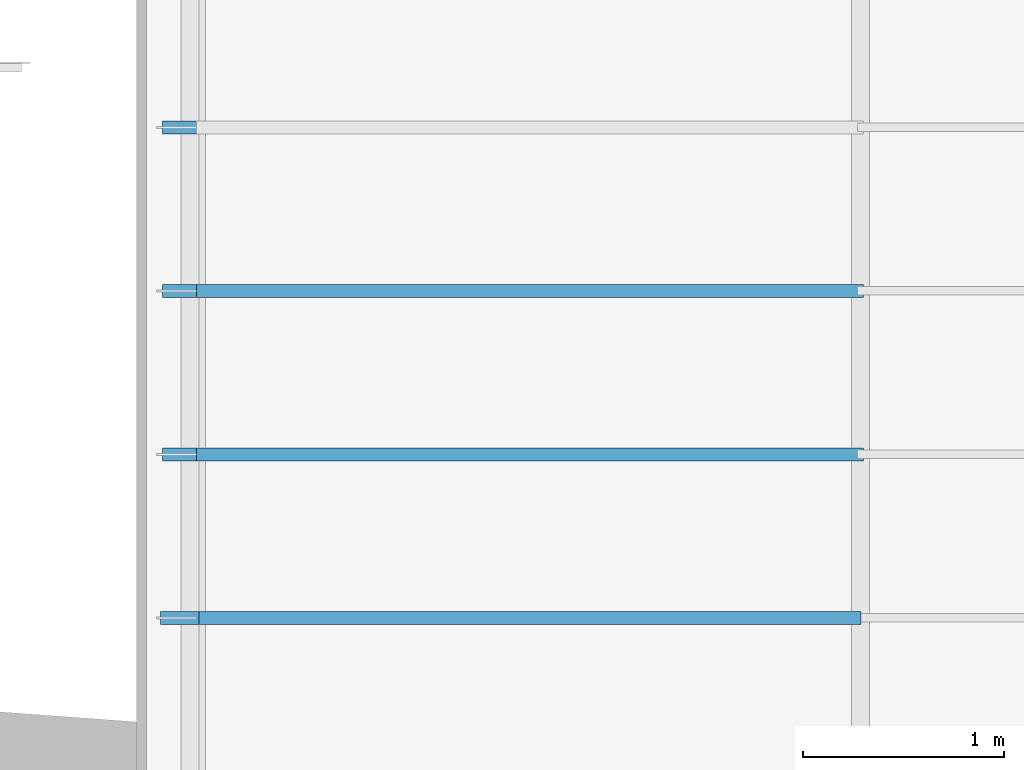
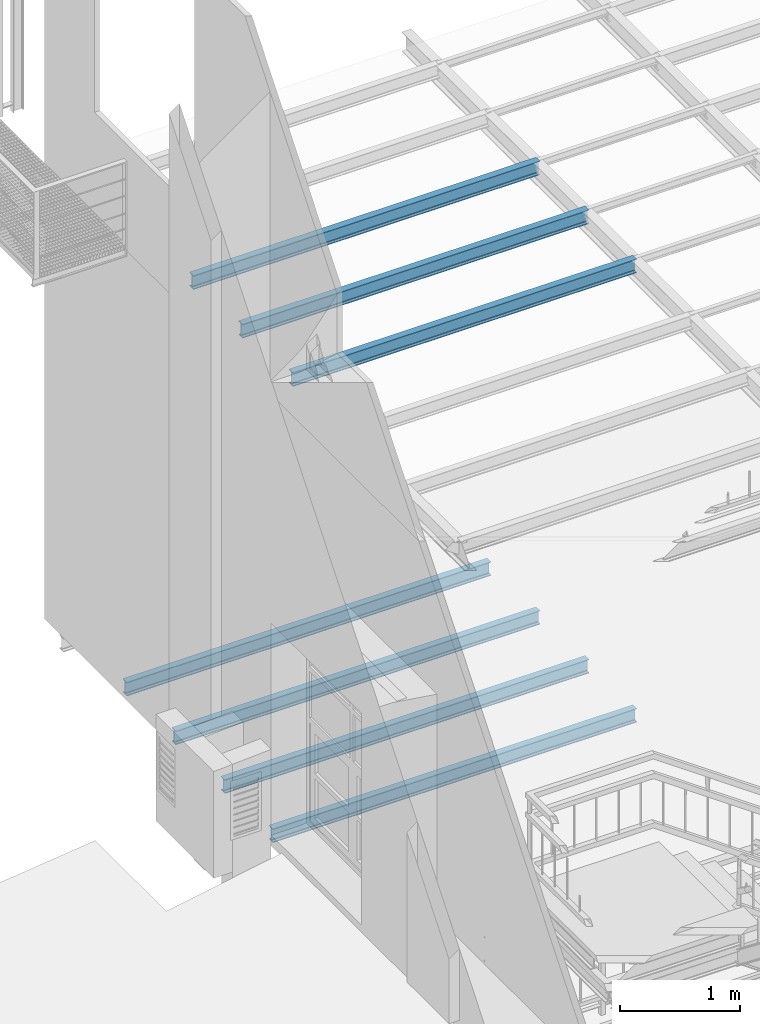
# One storey, part 18 of 33: 7 beams.
"""IFC2X3 building model written with IfcOpenShell, lengths in metres."""

from ifc_helpers import new_model, entity, si_unit, converted_unit, derived_unit, direction, frame, frame_2d, origin, place, context, subcontext, project, spatial, polyline, circle_curve, parameter, trimmed, segment, composite_curve, outline, extrude, material, type_object, element, save


model = new_model("IFC2X3")

# Units and contexts
model_context = context("Model", 3, precision=1e-05, world=origin(), true_north=direction((6.12303176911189e-17, 1.0)))
body_context = subcontext(model_context, "Body", "Model", "MODEL_VIEW")
ifc_project = project(units=[si_unit("LENGTHUNIT", "METRE"), si_unit("AREAUNIT", "SQUARE_METRE"), si_unit("VOLUMEUNIT", "CUBIC_METRE"), converted_unit("PLANEANGLEUNIT", "DEGREE", entity("IfcRatioMeasure", 0.0174532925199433), si_unit("PLANEANGLEUNIT", "RADIAN"), dimensions=[0, 0, 0, 0, 0, 0, 0]), si_unit("MASSUNIT", "GRAM", prefix="KILO"), derived_unit("MASSDENSITYUNIT", [(si_unit("MASSUNIT", "GRAM", prefix="KILO"), 1), (si_unit("LENGTHUNIT", "METRE"), -3)]), derived_unit("MOMENTOFINERTIAUNIT", [(si_unit("LENGTHUNIT", "METRE"), 4)]), si_unit("TIMEUNIT", "SECOND"), si_unit("FREQUENCYUNIT", "HERTZ"), si_unit("THERMODYNAMICTEMPERATUREUNIT", "DEGREE_CELSIUS"), derived_unit("THERMALTRANSMITTANCEUNIT", [(si_unit("MASSUNIT", "GRAM", prefix="KILO"), 1), (si_unit("THERMODYNAMICTEMPERATUREUNIT", "KELVIN"), -1), (si_unit("TIMEUNIT", "SECOND"), -3)]), derived_unit("VOLUMETRICFLOWRATEUNIT", [(si_unit("LENGTHUNIT", "METRE"), 3), (si_unit("TIMEUNIT", "SECOND"), -1)]), si_unit("ELECTRICCURRENTUNIT", "AMPERE"), si_unit("ELECTRICVOLTAGEUNIT", "VOLT"), si_unit("POWERUNIT", "WATT"), si_unit("FORCEUNIT", "NEWTON", prefix="KILO"), si_unit("ILLUMINANCEUNIT", "LUX"), si_unit("LUMINOUSFLUXUNIT", "LUMEN"), si_unit("LUMINOUSINTENSITYUNIT", "CANDELA"), derived_unit("USERDEFINED", [(si_unit("MASSUNIT", "GRAM", prefix="KILO"), -1), (si_unit("LENGTHUNIT", "METRE"), -2), (si_unit("TIMEUNIT", "SECOND"), 3), (si_unit("LUMINOUSFLUXUNIT", "LUMEN"), 1)]), derived_unit("LINEARVELOCITYUNIT", [(si_unit("LENGTHUNIT", "METRE"), 1), (si_unit("TIMEUNIT", "SECOND"), -1)]), si_unit("PRESSUREUNIT", "PASCAL"), derived_unit("USERDEFINED", [(si_unit("LENGTHUNIT", "METRE"), -2), (si_unit("MASSUNIT", "GRAM", prefix="KILO"), 1), (si_unit("TIMEUNIT", "SECOND"), -2)]), derived_unit("LINEARFORCEUNIT", [(si_unit("MASSUNIT", "GRAM", prefix="KILO"), 1), (si_unit("LENGTHUNIT", "METRE"), 1), (si_unit("TIMEUNIT", "SECOND"), -2), (si_unit("LENGTHUNIT", "METRE"), -1)]), derived_unit("PLANARFORCEUNIT", [(si_unit("MASSUNIT", "GRAM", prefix="KILO"), 1), (si_unit("LENGTHUNIT", "METRE"), 1), (si_unit("TIMEUNIT", "SECOND"), -2), (si_unit("LENGTHUNIT", "METRE"), -2)])], contexts=[model_context])

# Site, building, storey
site_placement = place(None, origin())
site = spatial("IfcSite", under=ifc_project, at=site_placement, Name="Superficie", CompositionType="ELEMENT")
building_placement = place(site_placement, origin())
building = spatial("IfcBuilding", under=site, at=building_placement, Name="Telegestiones", CompositionType="ELEMENT")
storey_placement = place(building_placement, frame((0.0, 0.0, 4.94)))
storey = spatial("IfcBuildingStorey", under=building, at=storey_placement, Name="Nivel 1_NPT", CompositionType="ELEMENT", Elevation=4.94)

# Beams
ifc_material = material(Name="Metal - Acero - 345 MPa")
beam_type = type_object("IfcBeamType", Name="IPN - Secciones en I con alas cónicas:IPN 140", PredefinedType="NOTDEFINED")
beam_1_placement = place(storey_placement, frame((6.15449215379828, 10.1916072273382, 0.0)))
element("IfcBeam", 1, at=beam_1_placement, inside=storey, type_object=beam_type, material=ifc_material, Name="IPN - Secciones en I con alas cónicas:IPN 140", ObjectType="IPN - Secciones en I con alas cónicas:IPN 140", context=body_context, shape_type="SweptSolid", body=[
    extrude(outline(composite_curve([segment(polyline([(0.0666671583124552, -0.0330000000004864), (0.069999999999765, -0.0330000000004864)]), True, "CONTINUOUS"), segment(polyline([(0.069999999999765, -0.0330000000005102), (0.0700000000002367, 0.0329999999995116)]), True, "CONTINUOUS"), segment(polyline([(0.0700000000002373, 0.0329999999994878), (0.0666671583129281, 0.0329999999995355)]), True, "CONTINUOUS"), segment(trimmed(circle_curve(frame_2d((0.0666671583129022, 0.0295999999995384), x_axis=(0.0, 1.0)), 0.00339999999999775), [parameter(0.0)], [parameter(82.0303896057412)], True, "PARAMETER"), True, "CONTINUOUS"), segment(polyline([(0.0632999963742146, 0.0300714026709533), (0.060176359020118, 0.00775970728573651)]), True, "CONTINUOUS"), segment(trimmed(circle_curve(frame_2d((0.0545314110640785, 0.00854999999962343), x_axis=(0.990341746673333, -0.138647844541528)), 0.00570000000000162), [parameter(277.96961039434)], [parameter(0.0)], True, "PARAMETER"), False, "CONTINUOUS"), segment(polyline([(0.0545314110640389, 0.00284999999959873), (-0.054531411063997, 0.00285000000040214)]), True, "CONTINUOUS"), segment(trimmed(circle_curve(frame_2d((-0.0545314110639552, 0.008550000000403), x_axis=(0.0, -1.0)), 0.00570000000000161), [parameter(277.969610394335)], [parameter(0.0)], True, "PARAMETER"), False, "CONTINUOUS"), segment(polyline([(-0.0601763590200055, 0.00775970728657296), (-0.0632999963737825, 0.030071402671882)]), True, "CONTINUOUS"), segment(trimmed(circle_curve(frame_2d((-0.0666671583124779, 0.0296000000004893), x_axis=(0.990341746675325, 0.138647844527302)), 0.00339999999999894), [parameter(0.0)], [parameter(82.0303896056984)], True, "PARAMETER"), True, "CONTINUOUS"), segment(polyline([(-0.0666671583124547, 0.0330000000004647), (-0.0699999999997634, 0.0330000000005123)]), True, "CONTINUOUS"), segment(polyline([(-0.0699999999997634, 0.0330000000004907), (-0.0700000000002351, -0.0329999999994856)]), True, "CONTINUOUS"), segment(polyline([(-0.0700000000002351, -0.0329999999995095), (-0.0666671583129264, -0.0329999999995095)]), True, "CONTINUOUS"), segment(trimmed(circle_curve(frame_2d((-0.066667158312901, -0.0295999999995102), x_axis=(0.0, -1.0)), 0.00339999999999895), [parameter(0.0)], [parameter(82.0303896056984)], True, "PARAMETER"), True, "CONTINUOUS"), segment(polyline([(-0.0632999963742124, -0.0300714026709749), (-0.0601763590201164, -0.00775970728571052)]), True, "CONTINUOUS"), segment(trimmed(circle_curve(frame_2d((-0.0545314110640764, -0.00854999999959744), x_axis=(-0.990341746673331, 0.138647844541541)), 0.00570000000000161), [parameter(277.969610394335)], [parameter(0.0)], True, "PARAMETER"), False, "CONTINUOUS"), segment(polyline([(-0.0545314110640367, -0.00284999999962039), (0.0545314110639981, -0.00285000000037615)]), True, "CONTINUOUS"), segment(trimmed(circle_curve(frame_2d((0.0545314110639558, -0.00855000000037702), x_axis=(0.0, 1.0)), 0.00570000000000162), [parameter(277.96961039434)], [parameter(0.0)], True, "PARAMETER"), False, "CONTINUOUS"), segment(polyline([(0.0601763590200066, -0.00775970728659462), (0.0632999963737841, -0.030071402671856)]), True, "CONTINUOUS"), segment(trimmed(circle_curve(frame_2d((0.0666671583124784, -0.0296000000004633), x_axis=(-0.990341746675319, -0.138647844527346)), 0.00339999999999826), [parameter(0.0)], [parameter(82.030389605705)], True, "PARAMETER"), True, "CONTINUOUS")], self_intersect=False)), frame((0.000160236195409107, 0.0, -0.100000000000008), z_axis=(1.0, 0.0, 0.0), x_axis=(0.0, 0.0, -1.0)), (0.0, 0.0, 1.0), 3.493),
])
beam_2_placement = place(storey_placement, frame((6.1648126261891, 11.0071072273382, 0.0)))
element("IfcBeam", 2, at=beam_2_placement, inside=storey, type_object=beam_type, material=ifc_material, Name="IPN - Secciones en I con alas cónicas:IPN 140", ObjectType="IPN - Secciones en I con alas cónicas:IPN 140", context=body_context, shape_type="SweptSolid", body=[
    extrude(outline(composite_curve([segment(polyline([(0.0666671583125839, -0.0330000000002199), (0.0699999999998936, -0.0330000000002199)]), True, "CONTINUOUS"), segment(polyline([(0.0699999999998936, -0.0330000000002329), (0.0700000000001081, 0.0329999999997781)]), True, "CONTINUOUS"), segment(polyline([(0.0700000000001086, 0.0329999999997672), (0.0666671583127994, 0.0329999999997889)]), True, "CONTINUOUS"), segment(trimmed(circle_curve(frame_2d((0.0666671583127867, 0.0295999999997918), x_axis=(0.0, 1.0)), 0.00339999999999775), [parameter(0.0)], [parameter(82.0303896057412)], True, "PARAMETER"), True, "CONTINUOUS"), segment(polyline([(0.0632999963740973, 0.0300714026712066), (0.0601763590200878, 0.00775970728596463)]), True, "CONTINUOUS"), segment(trimmed(circle_curve(frame_2d((0.0545314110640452, 0.00854999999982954), x_axis=(0.990341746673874, -0.138647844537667)), 0.00570000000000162), [parameter(277.96961039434)], [parameter(0.0)], True, "PARAMETER"), False, "CONTINUOUS"), segment(polyline([(0.0545314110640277, 0.00284999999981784), (-0.0545314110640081, 0.00285000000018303)]), True, "CONTINUOUS"), segment(trimmed(circle_curve(frame_2d((-0.0545314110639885, 0.0085500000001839), x_axis=(0.0, -1.0)), 0.00570000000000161), [parameter(277.969610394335)], [parameter(0.0)], True, "PARAMETER"), False, "CONTINUOUS"), segment(polyline([(-0.0601763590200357, 0.00775970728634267), (-0.0632999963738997, 0.0300714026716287)]), True, "CONTINUOUS"), segment(trimmed(circle_curve(frame_2d((-0.0666671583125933, 0.0296000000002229), x_axis=(0.990341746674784, 0.138647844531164)), 0.00339999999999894), [parameter(0.0)], [parameter(82.0303896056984)], True, "PARAMETER"), True, "CONTINUOUS"), segment(polyline([(-0.0666671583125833, 0.0330000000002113), (-0.069999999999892, 0.0330000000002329)]), True, "CONTINUOUS"), segment(polyline([(-0.069999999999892, 0.0330000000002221), (-0.0700000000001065, -0.0329999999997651)]), True, "CONTINUOUS"), segment(polyline([(-0.0700000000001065, -0.0329999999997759), (-0.0666671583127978, -0.0329999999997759)]), True, "CONTINUOUS"), segment(trimmed(circle_curve(frame_2d((-0.0666671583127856, -0.0295999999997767), x_axis=(0.0, -1.0)), 0.00339999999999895), [parameter(0.0)], [parameter(82.0303896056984)], True, "PARAMETER"), True, "CONTINUOUS"), segment(polyline([(-0.0632999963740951, -0.0300714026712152), (-0.0601763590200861, -0.00775970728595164)]), True, "CONTINUOUS"), segment(trimmed(circle_curve(frame_2d((-0.054531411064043, -0.00854999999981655), x_axis=(-0.990341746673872, 0.13864784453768)), 0.00570000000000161), [parameter(277.969610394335)], [parameter(0.0)], True, "PARAMETER"), False, "CONTINUOUS"), segment(polyline([(-0.0545314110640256, -0.00284999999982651), (0.0545314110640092, -0.00285000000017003)]), True, "CONTINUOUS"), segment(trimmed(circle_curve(frame_2d((0.0545314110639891, -0.0085500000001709), x_axis=(0.0, 1.0)), 0.00570000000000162), [parameter(277.96961039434)], [parameter(0.0)], True, "PARAMETER"), False, "CONTINUOUS"), segment(polyline([(0.0601763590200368, -0.00775970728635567), (0.0632999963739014, -0.0300714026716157)]), True, "CONTINUOUS"), segment(trimmed(circle_curve(frame_2d((0.0666671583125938, -0.0296000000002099), x_axis=(-0.990341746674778, -0.138647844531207)), 0.00339999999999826), [parameter(0.0)], [parameter(82.030389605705)], True, "PARAMETER"), True, "CONTINUOUS")], self_intersect=False)), frame((0.0, 0.0, -0.100000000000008), z_axis=(1.0, 0.0, 0.0), x_axis=(0.0, 0.0, -1.0)), (0.0, 0.0, 1.0), 3.495),
])
beam_3_placement = place(storey_placement, frame((6.1648126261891, 11.8226072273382, 0.0)))
element("IfcBeam", 3, at=beam_3_placement, inside=storey, type_object=beam_type, material=ifc_material, Name="IPN - Secciones en I con alas cónicas:IPN 140", ObjectType="IPN - Secciones en I con alas cónicas:IPN 140", context=body_context, shape_type="SweptSolid", body=[
    extrude(outline(composite_curve([segment(polyline([(0.0666671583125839, -0.0330000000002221), (0.0699999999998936, -0.0330000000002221)]), True, "CONTINUOUS"), segment(polyline([(0.0699999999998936, -0.0330000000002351), (0.0700000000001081, 0.0329999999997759)]), True, "CONTINUOUS"), segment(polyline([(0.0700000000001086, 0.0329999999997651), (0.0666671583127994, 0.0329999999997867)]), True, "CONTINUOUS"), segment(trimmed(circle_curve(frame_2d((0.0666671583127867, 0.0295999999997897), x_axis=(0.0, 1.0)), 0.00339999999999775), [parameter(0.0)], [parameter(82.0303896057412)], True, "PARAMETER"), True, "CONTINUOUS"), segment(polyline([(0.0632999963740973, 0.0300714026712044), (0.0601763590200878, 0.00775970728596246)]), True, "CONTINUOUS"), segment(trimmed(circle_curve(frame_2d((0.0545314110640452, 0.00854999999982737), x_axis=(0.990341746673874, -0.138647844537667)), 0.00570000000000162), [parameter(277.96961039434)], [parameter(0.0)], True, "PARAMETER"), False, "CONTINUOUS"), segment(polyline([(0.0545314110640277, 0.00284999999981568), (-0.0545314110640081, 0.00285000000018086)]), True, "CONTINUOUS"), segment(trimmed(circle_curve(frame_2d((-0.0545314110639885, 0.00855000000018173), x_axis=(0.0, -1.0)), 0.00570000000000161), [parameter(277.969610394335)], [parameter(0.0)], True, "PARAMETER"), False, "CONTINUOUS"), segment(polyline([(-0.0601763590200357, 0.00775970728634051), (-0.0632999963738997, 0.0300714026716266)]), True, "CONTINUOUS"), segment(trimmed(circle_curve(frame_2d((-0.0666671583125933, 0.0296000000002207), x_axis=(0.990341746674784, 0.138647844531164)), 0.00339999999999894), [parameter(0.0)], [parameter(82.0303896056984)], True, "PARAMETER"), True, "CONTINUOUS"), segment(polyline([(-0.0666671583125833, 0.0330000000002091), (-0.069999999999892, 0.0330000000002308)]), True, "CONTINUOUS"), segment(polyline([(-0.069999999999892, 0.0330000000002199), (-0.0700000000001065, -0.0329999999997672)]), True, "CONTINUOUS"), segment(polyline([(-0.0700000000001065, -0.0329999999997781), (-0.0666671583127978, -0.0329999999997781)]), True, "CONTINUOUS"), segment(trimmed(circle_curve(frame_2d((-0.0666671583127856, -0.0295999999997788), x_axis=(0.0, -1.0)), 0.00339999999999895), [parameter(0.0)], [parameter(82.0303896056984)], True, "PARAMETER"), True, "CONTINUOUS"), segment(polyline([(-0.0632999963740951, -0.0300714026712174), (-0.0601763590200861, -0.0077597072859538)]), True, "CONTINUOUS"), segment(trimmed(circle_curve(frame_2d((-0.054531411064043, -0.00854999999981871), x_axis=(-0.990341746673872, 0.13864784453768)), 0.00570000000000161), [parameter(277.969610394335)], [parameter(0.0)], True, "PARAMETER"), False, "CONTINUOUS"), segment(polyline([(-0.0545314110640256, -0.00284999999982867), (0.0545314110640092, -0.0028500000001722)]), True, "CONTINUOUS"), segment(trimmed(circle_curve(frame_2d((0.0545314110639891, -0.00855000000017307), x_axis=(0.0, 1.0)), 0.00570000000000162), [parameter(277.96961039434)], [parameter(0.0)], True, "PARAMETER"), False, "CONTINUOUS"), segment(polyline([(0.0601763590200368, -0.00775970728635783), (0.0632999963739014, -0.0300714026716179)]), True, "CONTINUOUS"), segment(trimmed(circle_curve(frame_2d((0.0666671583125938, -0.029600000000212), x_axis=(-0.990341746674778, -0.138647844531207)), 0.00339999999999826), [parameter(0.0)], [parameter(82.030389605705)], True, "PARAMETER"), True, "CONTINUOUS")], self_intersect=False)), frame((0.0, 0.0, -0.100000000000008), z_axis=(1.0, 0.0, 0.0), x_axis=(0.0, 0.0, -1.0)), (0.0, 0.0, 1.0), 3.495),
])
beam_4_placement = place(storey_placement, frame((6.1648126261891, 12.6381072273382, 0.0)))
element("IfcBeam", 4, at=beam_4_placement, inside=storey, type_object=beam_type, material=ifc_material, Name="IPN - Secciones en I con alas cónicas:IPN 140", ObjectType="IPN - Secciones en I con alas cónicas:IPN 140", context=body_context, shape_type="SweptSolid", body=[
    extrude(outline(composite_curve([segment(polyline([(0.0666671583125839, -0.0330000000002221), (0.0699999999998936, -0.0330000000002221)]), True, "CONTINUOUS"), segment(polyline([(0.0699999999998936, -0.0330000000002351), (0.0700000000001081, 0.0329999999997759)]), True, "CONTINUOUS"), segment(polyline([(0.0700000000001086, 0.0329999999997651), (0.0666671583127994, 0.0329999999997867)]), True, "CONTINUOUS"), segment(trimmed(circle_curve(frame_2d((0.0666671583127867, 0.0295999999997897), x_axis=(0.0, 1.0)), 0.00339999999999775), [parameter(0.0)], [parameter(82.0303896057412)], True, "PARAMETER"), True, "CONTINUOUS"), segment(polyline([(0.0632999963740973, 0.0300714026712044), (0.0601763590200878, 0.00775970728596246)]), True, "CONTINUOUS"), segment(trimmed(circle_curve(frame_2d((0.0545314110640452, 0.00854999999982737), x_axis=(0.990341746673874, -0.138647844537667)), 0.00570000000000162), [parameter(277.96961039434)], [parameter(0.0)], True, "PARAMETER"), False, "CONTINUOUS"), segment(polyline([(0.0545314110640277, 0.00284999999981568), (-0.0545314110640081, 0.00285000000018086)]), True, "CONTINUOUS"), segment(trimmed(circle_curve(frame_2d((-0.0545314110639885, 0.00855000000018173), x_axis=(0.0, -1.0)), 0.00570000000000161), [parameter(277.969610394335)], [parameter(0.0)], True, "PARAMETER"), False, "CONTINUOUS"), segment(polyline([(-0.0601763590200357, 0.00775970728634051), (-0.0632999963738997, 0.0300714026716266)]), True, "CONTINUOUS"), segment(trimmed(circle_curve(frame_2d((-0.0666671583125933, 0.0296000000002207), x_axis=(0.990341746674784, 0.138647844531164)), 0.00339999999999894), [parameter(0.0)], [parameter(82.0303896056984)], True, "PARAMETER"), True, "CONTINUOUS"), segment(polyline([(-0.0666671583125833, 0.0330000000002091), (-0.069999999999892, 0.0330000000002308)]), True, "CONTINUOUS"), segment(polyline([(-0.069999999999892, 0.0330000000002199), (-0.0700000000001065, -0.0329999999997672)]), True, "CONTINUOUS"), segment(polyline([(-0.0700000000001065, -0.0329999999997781), (-0.0666671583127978, -0.0329999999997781)]), True, "CONTINUOUS"), segment(trimmed(circle_curve(frame_2d((-0.0666671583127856, -0.0295999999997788), x_axis=(0.0, -1.0)), 0.00339999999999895), [parameter(0.0)], [parameter(82.0303896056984)], True, "PARAMETER"), True, "CONTINUOUS"), segment(polyline([(-0.0632999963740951, -0.0300714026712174), (-0.0601763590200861, -0.0077597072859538)]), True, "CONTINUOUS"), segment(trimmed(circle_curve(frame_2d((-0.054531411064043, -0.00854999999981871), x_axis=(-0.990341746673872, 0.13864784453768)), 0.00570000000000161), [parameter(277.969610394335)], [parameter(0.0)], True, "PARAMETER"), False, "CONTINUOUS"), segment(polyline([(-0.0545314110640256, -0.00284999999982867), (0.0545314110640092, -0.0028500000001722)]), True, "CONTINUOUS"), segment(trimmed(circle_curve(frame_2d((0.0545314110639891, -0.00855000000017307), x_axis=(0.0, 1.0)), 0.00570000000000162), [parameter(277.96961039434)], [parameter(0.0)], True, "PARAMETER"), False, "CONTINUOUS"), segment(polyline([(0.0601763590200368, -0.00775970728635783), (0.0632999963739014, -0.0300714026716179)]), True, "CONTINUOUS"), segment(trimmed(circle_curve(frame_2d((0.0666671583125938, -0.029600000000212), x_axis=(-0.990341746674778, -0.138647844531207)), 0.00339999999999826), [parameter(0.0)], [parameter(82.030389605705)], True, "PARAMETER"), True, "CONTINUOUS")], self_intersect=False)), frame((0.0, 0.0, -0.100000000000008), z_axis=(1.0, 0.0, 0.0), x_axis=(0.0, 0.0, -1.0)), (0.0, 0.0, 1.0), 3.495),
])
beam_5_placement = place(storey_placement, frame((6.33481262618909, 10.1916072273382, 4.56)))
element("IfcBeam", 5, at=beam_5_placement, inside=storey, type_object=beam_type, material=ifc_material, Name="IPN - Secciones en I con alas cónicas:IPN 140", ObjectType="IPN - Secciones en I con alas cónicas:IPN 140", context=body_context, shape_type="SweptSolid", body=[
    extrude(outline(composite_curve([segment(polyline([(0.0666671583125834, -0.0330000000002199), (0.0699999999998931, -0.0330000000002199)]), True, "CONTINUOUS"), segment(polyline([(0.0699999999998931, -0.0330000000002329), (0.0700000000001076, 0.0329999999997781)]), True, "CONTINUOUS"), segment(polyline([(0.0700000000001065, 0.0329999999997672), (0.0666671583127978, 0.0329999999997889)]), True, "CONTINUOUS"), segment(trimmed(circle_curve(frame_2d((0.0666671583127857, 0.0295999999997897), x_axis=(0.0, 1.0)), 0.00339999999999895), [parameter(0.0)], [parameter(82.0303896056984)], True, "PARAMETER"), True, "CONTINUOUS"), segment(polyline([(0.0632999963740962, 0.0300714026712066), (0.0601763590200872, 0.00775970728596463)]), True, "CONTINUOUS"), segment(trimmed(circle_curve(frame_2d((0.0545314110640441, 0.00854999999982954), x_axis=(0.990341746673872, -0.13864784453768)), 0.00570000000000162), [parameter(277.969610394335)], [parameter(0.0)], True, "PARAMETER"), False, "CONTINUOUS"), segment(polyline([(0.0545314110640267, 0.00284999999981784), (-0.0545314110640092, 0.00285000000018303)]), True, "CONTINUOUS"), segment(trimmed(circle_curve(frame_2d((-0.0545314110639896, 0.0085500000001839), x_axis=(0.0, -1.0)), 0.00570000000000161), [parameter(277.969610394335)], [parameter(0.0)], True, "PARAMETER"), False, "CONTINUOUS"), segment(polyline([(-0.0601763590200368, 0.00775970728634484), (-0.0632999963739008, 0.0300714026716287)]), True, "CONTINUOUS"), segment(trimmed(circle_curve(frame_2d((-0.0666671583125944, 0.0296000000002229), x_axis=(0.990341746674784, 0.138647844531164)), 0.00339999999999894), [parameter(0.0)], [parameter(82.0303896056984)], True, "PARAMETER"), True, "CONTINUOUS"), segment(polyline([(-0.0666671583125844, 0.0330000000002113), (-0.0699999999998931, 0.0330000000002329)]), True, "CONTINUOUS"), segment(polyline([(-0.0699999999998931, 0.0330000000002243), (-0.0700000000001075, -0.0329999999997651)]), True, "CONTINUOUS"), segment(polyline([(-0.0700000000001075, -0.0329999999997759), (-0.0666671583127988, -0.0329999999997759)]), True, "CONTINUOUS"), segment(trimmed(circle_curve(frame_2d((-0.0666671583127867, -0.0295999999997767), x_axis=(0.0, -1.0)), 0.00339999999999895), [parameter(0.0)], [parameter(82.0303896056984)], True, "PARAMETER"), True, "CONTINUOUS"), segment(polyline([(-0.0632999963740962, -0.0300714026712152), (-0.0601763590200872, -0.00775970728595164)]), True, "CONTINUOUS"), segment(trimmed(circle_curve(frame_2d((-0.0545314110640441, -0.00854999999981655), x_axis=(-0.990341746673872, 0.13864784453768)), 0.00570000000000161), [parameter(277.969610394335)], [parameter(0.0)], True, "PARAMETER"), False, "CONTINUOUS"), segment(polyline([(-0.0545314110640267, -0.00284999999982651), (0.0545314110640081, -0.00285000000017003)]), True, "CONTINUOUS"), segment(trimmed(circle_curve(frame_2d((0.0545314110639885, -0.0085500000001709), x_axis=(0.0, 1.0)), 0.00570000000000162), [parameter(277.969610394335)], [parameter(0.0)], True, "PARAMETER"), False, "CONTINUOUS"), segment(polyline([(0.0601763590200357, -0.0077597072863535), (0.0632999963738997, -0.0300714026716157)]), True, "CONTINUOUS"), segment(trimmed(circle_curve(frame_2d((0.0666671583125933, -0.0296000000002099), x_axis=(-0.990341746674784, -0.138647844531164)), 0.00339999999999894), [parameter(0.0)], [parameter(82.0303896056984)], True, "PARAMETER"), True, "CONTINUOUS")], self_intersect=False)), frame((0.0119999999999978, 0.0, -0.100000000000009), z_axis=(1.0, 0.0, 0.0), x_axis=(0.0, 0.0, -1.0)), (0.0, 0.0, 1.0), 3.301),
])
beam_6_placement = place(storey_placement, frame((6.33481262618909, 11.0071072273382, 4.56)))
element("IfcBeam", 6, at=beam_6_placement, inside=storey, type_object=beam_type, material=ifc_material, Name="IPN - Secciones en I con alas cónicas:IPN 140", ObjectType="IPN - Secciones en I con alas cónicas:IPN 140", context=body_context, shape_type="SweptSolid", body=[
    extrude(outline(composite_curve([segment(polyline([(0.0666671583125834, -0.0330000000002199), (0.0699999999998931, -0.0330000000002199)]), True, "CONTINUOUS"), segment(polyline([(0.0699999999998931, -0.0330000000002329), (0.0700000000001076, 0.0329999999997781)]), True, "CONTINUOUS"), segment(polyline([(0.0700000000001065, 0.0329999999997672), (0.0666671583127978, 0.0329999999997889)]), True, "CONTINUOUS"), segment(trimmed(circle_curve(frame_2d((0.0666671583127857, 0.0295999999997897), x_axis=(0.0, 1.0)), 0.00339999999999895), [parameter(0.0)], [parameter(82.0303896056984)], True, "PARAMETER"), True, "CONTINUOUS"), segment(polyline([(0.0632999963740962, 0.0300714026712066), (0.0601763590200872, 0.00775970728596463)]), True, "CONTINUOUS"), segment(trimmed(circle_curve(frame_2d((0.0545314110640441, 0.00854999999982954), x_axis=(0.990341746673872, -0.13864784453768)), 0.00570000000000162), [parameter(277.969610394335)], [parameter(0.0)], True, "PARAMETER"), False, "CONTINUOUS"), segment(polyline([(0.0545314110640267, 0.00284999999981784), (-0.0545314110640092, 0.00285000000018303)]), True, "CONTINUOUS"), segment(trimmed(circle_curve(frame_2d((-0.0545314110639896, 0.0085500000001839), x_axis=(0.0, -1.0)), 0.00570000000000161), [parameter(277.969610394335)], [parameter(0.0)], True, "PARAMETER"), False, "CONTINUOUS"), segment(polyline([(-0.0601763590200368, 0.00775970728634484), (-0.0632999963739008, 0.0300714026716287)]), True, "CONTINUOUS"), segment(trimmed(circle_curve(frame_2d((-0.0666671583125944, 0.0296000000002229), x_axis=(0.990341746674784, 0.138647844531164)), 0.00339999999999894), [parameter(0.0)], [parameter(82.0303896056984)], True, "PARAMETER"), True, "CONTINUOUS"), segment(polyline([(-0.0666671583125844, 0.0330000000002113), (-0.0699999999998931, 0.0330000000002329)]), True, "CONTINUOUS"), segment(polyline([(-0.0699999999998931, 0.0330000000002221), (-0.0700000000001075, -0.0329999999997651)]), True, "CONTINUOUS"), segment(polyline([(-0.0700000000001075, -0.0329999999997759), (-0.0666671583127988, -0.0329999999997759)]), True, "CONTINUOUS"), segment(trimmed(circle_curve(frame_2d((-0.0666671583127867, -0.0295999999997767), x_axis=(0.0, -1.0)), 0.00339999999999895), [parameter(0.0)], [parameter(82.0303896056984)], True, "PARAMETER"), True, "CONTINUOUS"), segment(polyline([(-0.0632999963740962, -0.0300714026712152), (-0.0601763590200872, -0.00775970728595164)]), True, "CONTINUOUS"), segment(trimmed(circle_curve(frame_2d((-0.0545314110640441, -0.00854999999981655), x_axis=(-0.990341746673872, 0.13864784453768)), 0.00570000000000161), [parameter(277.969610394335)], [parameter(0.0)], True, "PARAMETER"), False, "CONTINUOUS"), segment(polyline([(-0.0545314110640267, -0.00284999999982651), (0.0545314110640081, -0.00285000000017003)]), True, "CONTINUOUS"), segment(trimmed(circle_curve(frame_2d((0.0545314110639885, -0.0085500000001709), x_axis=(0.0, 1.0)), 0.00570000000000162), [parameter(277.969610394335)], [parameter(0.0)], True, "PARAMETER"), False, "CONTINUOUS"), segment(polyline([(0.0601763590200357, -0.0077597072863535), (0.0632999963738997, -0.0300714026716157)]), True, "CONTINUOUS"), segment(trimmed(circle_curve(frame_2d((0.0666671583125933, -0.0296000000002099), x_axis=(-0.990341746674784, -0.138647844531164)), 0.00339999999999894), [parameter(0.0)], [parameter(82.0303896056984)], True, "PARAMETER"), True, "CONTINUOUS")], self_intersect=False)), frame((0.0, 0.0, -0.100000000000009), z_axis=(1.0, 0.0, 0.0), x_axis=(0.0, 0.0, -1.0)), (0.0, 0.0, 1.0), 3.325),
])
beam_7_placement = place(storey_placement, frame((6.3348126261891, 11.8226072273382, 4.56)))
element("IfcBeam", 7, at=beam_7_placement, inside=storey, type_object=beam_type, material=ifc_material, Name="IPN - Secciones en I con alas cónicas:IPN 140", ObjectType="IPN - Secciones en I con alas cónicas:IPN 140", context=body_context, shape_type="SweptSolid", body=[
    extrude(outline(composite_curve([segment(polyline([(0.0666671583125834, -0.0330000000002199), (0.0699999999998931, -0.0330000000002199)]), True, "CONTINUOUS"), segment(polyline([(0.0699999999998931, -0.0330000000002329), (0.0700000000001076, 0.0329999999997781)]), True, "CONTINUOUS"), segment(polyline([(0.0700000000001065, 0.0329999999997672), (0.0666671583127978, 0.0329999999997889)]), True, "CONTINUOUS"), segment(trimmed(circle_curve(frame_2d((0.0666671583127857, 0.0295999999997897), x_axis=(0.0, 1.0)), 0.00339999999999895), [parameter(0.0)], [parameter(82.0303896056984)], True, "PARAMETER"), True, "CONTINUOUS"), segment(polyline([(0.0632999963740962, 0.0300714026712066), (0.0601763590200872, 0.00775970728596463)]), True, "CONTINUOUS"), segment(trimmed(circle_curve(frame_2d((0.0545314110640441, 0.00854999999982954), x_axis=(0.990341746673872, -0.13864784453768)), 0.00570000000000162), [parameter(277.969610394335)], [parameter(0.0)], True, "PARAMETER"), False, "CONTINUOUS"), segment(polyline([(0.0545314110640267, 0.00284999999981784), (-0.0545314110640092, 0.00285000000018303)]), True, "CONTINUOUS"), segment(trimmed(circle_curve(frame_2d((-0.0545314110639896, 0.0085500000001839), x_axis=(0.0, -1.0)), 0.00570000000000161), [parameter(277.969610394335)], [parameter(0.0)], True, "PARAMETER"), False, "CONTINUOUS"), segment(polyline([(-0.0601763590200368, 0.00775970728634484), (-0.0632999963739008, 0.0300714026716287)]), True, "CONTINUOUS"), segment(trimmed(circle_curve(frame_2d((-0.0666671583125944, 0.0296000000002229), x_axis=(0.990341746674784, 0.138647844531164)), 0.00339999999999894), [parameter(0.0)], [parameter(82.0303896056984)], True, "PARAMETER"), True, "CONTINUOUS"), segment(polyline([(-0.0666671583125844, 0.0330000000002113), (-0.0699999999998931, 0.0330000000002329)]), True, "CONTINUOUS"), segment(polyline([(-0.0699999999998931, 0.0330000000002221), (-0.0700000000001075, -0.0329999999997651)]), True, "CONTINUOUS"), segment(polyline([(-0.0700000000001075, -0.0329999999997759), (-0.0666671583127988, -0.0329999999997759)]), True, "CONTINUOUS"), segment(trimmed(circle_curve(frame_2d((-0.0666671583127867, -0.0295999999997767), x_axis=(0.0, -1.0)), 0.00339999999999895), [parameter(0.0)], [parameter(82.0303896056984)], True, "PARAMETER"), True, "CONTINUOUS"), segment(polyline([(-0.0632999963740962, -0.0300714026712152), (-0.0601763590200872, -0.00775970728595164)]), True, "CONTINUOUS"), segment(trimmed(circle_curve(frame_2d((-0.0545314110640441, -0.00854999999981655), x_axis=(-0.990341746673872, 0.13864784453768)), 0.00570000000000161), [parameter(277.969610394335)], [parameter(0.0)], True, "PARAMETER"), False, "CONTINUOUS"), segment(polyline([(-0.0545314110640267, -0.00284999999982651), (0.0545314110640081, -0.00285000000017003)]), True, "CONTINUOUS"), segment(trimmed(circle_curve(frame_2d((0.0545314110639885, -0.0085500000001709), x_axis=(0.0, 1.0)), 0.00570000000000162), [parameter(277.969610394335)], [parameter(0.0)], True, "PARAMETER"), False, "CONTINUOUS"), segment(polyline([(0.0601763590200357, -0.0077597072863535), (0.0632999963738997, -0.0300714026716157)]), True, "CONTINUOUS"), segment(trimmed(circle_curve(frame_2d((0.0666671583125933, -0.0296000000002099), x_axis=(-0.990341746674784, -0.138647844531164)), 0.00339999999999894), [parameter(0.0)], [parameter(82.0303896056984)], True, "PARAMETER"), True, "CONTINUOUS")], self_intersect=False)), frame((0.0, 0.0, -0.100000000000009), z_axis=(1.0, 0.0, 0.0), x_axis=(0.0, 0.0, -1.0)), (0.0, 0.0, 1.0), 3.325),
])

save(model, "model.ifc")
